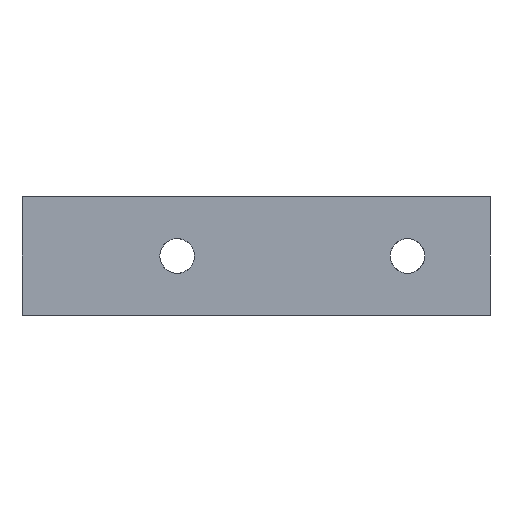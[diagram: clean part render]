
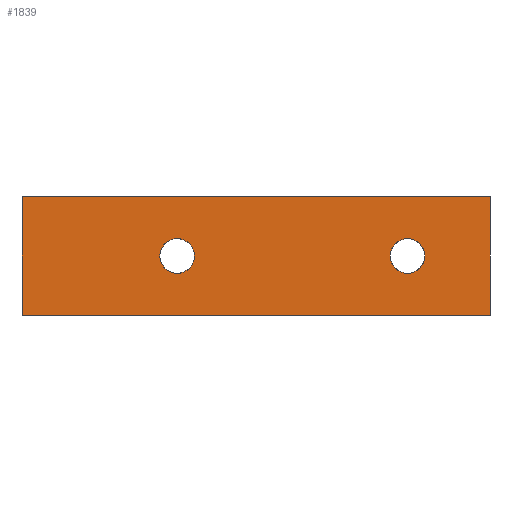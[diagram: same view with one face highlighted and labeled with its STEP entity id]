
A CAD part, front view. The second image highlights one B-rep face of the part: STEP entity #1839.
In plain terms, the highlighted planar face has unit normal (0.001, -1, 0).
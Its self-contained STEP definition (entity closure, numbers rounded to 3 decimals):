
#14 = EDGE_CURVE ( 'NONE', #1973, #266, #146, .T. ) ;
#44 = EDGE_CURVE ( 'NONE', #1586, #1378, #105, .T. ) ;
#47 = EDGE_CURVE ( 'NONE', #742, #2865, #94, .T. ) ;
#52 = EDGE_CURVE ( 'NONE', #394, #636, #84, .T. ) ;
#77 = VECTOR ( 'NONE', #260, 1000. ) ;
#84 = LINE ( 'NONE', #314, #77 ) ;
#94 = CIRCLE ( 'NONE', #3432, 2.4 ) ;
#105 = CIRCLE ( 'NONE', #3418, 2.4 ) ;
#126 = VECTOR ( 'NONE', #1924, 1000. ) ;
#146 = LINE ( 'NONE', #381, #126 ) ;
#147 = DIRECTION ( 'NONE',  ( 1., 0.001, 0. ) ) ;
#207 = CARTESIAN_POINT ( 'NONE',  ( -47.885, 13.576, -4.123 ) ) ;
#236 = CARTESIAN_POINT ( 'NONE',  ( -11.436, 13.598, -4.123 ) ) ;
#260 = DIRECTION ( 'NONE',  ( 0., 0., -1. ) ) ;
#266 = VERTEX_POINT ( 'NONE', #2523 ) ;
#276 = DIRECTION ( 'NONE',  ( 0., 0., -1. ) ) ;
#287 = DIRECTION ( 'NONE',  ( 0.001, -1., 0. ) ) ;
#290 = CARTESIAN_POINT ( 'NONE',  ( -13.836, 13.597, -4.123 ) ) ;
#296 = DIRECTION ( 'NONE',  ( 0.001, -1., 0. ) ) ;
#300 = DIRECTION ( 'NONE',  ( 1., 0.001, 0. ) ) ;
#305 = EDGE_CURVE ( 'NONE', #1378, #1586, #976, .T. ) ;
#314 = CARTESIAN_POINT ( 'NONE',  ( -2.386, 13.604, -12.373 ) ) ;
#319 = CARTESIAN_POINT ( 'NONE',  ( -45.835, 13.577, -4.123 ) ) ;
#324 = DIRECTION ( 'NONE',  ( 0.001, -1., 0. ) ) ;
#339 = DIRECTION ( 'NONE',  ( 1., 0.001, 0. ) ) ;
#381 = CARTESIAN_POINT ( 'NONE',  ( -67.385, 13.564, -12.373 ) ) ;
#394 = VERTEX_POINT ( 'NONE', #2170 ) ;
#506 = ORIENTED_EDGE ( 'NONE', *, *, #1813, .T. ) ;
#589 = ORIENTED_EDGE ( 'NONE', *, *, #305, .F. ) ;
#618 = PLANE ( 'NONE',  #750 ) ;
#619 = ORIENTED_EDGE ( 'NONE', *, *, #52, .F. ) ;
#636 = VERTEX_POINT ( 'NONE', #759 ) ;
#711 = CARTESIAN_POINT ( 'NONE',  ( -16.236, 13.595, -4.123 ) ) ;
#742 = VERTEX_POINT ( 'NONE', #3122 ) ;
#750 = AXIS2_PLACEMENT_3D ( 'NONE', #207, #287, #276 ) ;
#757 = ORIENTED_EDGE ( 'NONE', *, *, #44, .F. ) ;
#759 = CARTESIAN_POINT ( 'NONE',  ( -2.386, 13.604, -12.373 ) ) ;
#866 = CARTESIAN_POINT ( 'NONE',  ( -48.235, 13.576, -4.123 ) ) ;
#976 = CIRCLE ( 'NONE', #2829, 2.4 ) ;
#1047 = FACE_BOUND ( 'NONE', #2470, .T. ) ;
#1053 = FACE_OUTER_BOUND ( 'NONE', #2839, .T. ) ;
#1064 = VECTOR ( 'NONE', #1297, 1000. ) ;
#1067 = EDGE_CURVE ( 'NONE', #2865, #742, #1741, .T. ) ;
#1282 = CARTESIAN_POINT ( 'NONE',  ( -83.835, 13.554, 4.127 ) ) ;
#1297 = DIRECTION ( 'NONE',  ( -1., -0.001, 0. ) ) ;
#1319 = ORIENTED_EDGE ( 'NONE', *, *, #47, .F. ) ;
#1378 = VERTEX_POINT ( 'NONE', #711 ) ;
#1416 = AXIS2_PLACEMENT_3D ( 'NONE', #1522, #1519, #1517 ) ;
#1455 = FACE_BOUND ( 'NONE', #2229, .T. ) ;
#1457 = ORIENTED_EDGE ( 'NONE', *, *, #1067, .F. ) ;
#1517 = DIRECTION ( 'NONE',  ( 1., 0.001, 0. ) ) ;
#1519 = DIRECTION ( 'NONE',  ( 0.001, -1., 0. ) ) ;
#1522 = CARTESIAN_POINT ( 'NONE',  ( -45.835, 13.577, -4.123 ) ) ;
#1586 = VERTEX_POINT ( 'NONE', #236 ) ;
#1699 = ORIENTED_EDGE ( 'NONE', *, *, #14, .F. ) ;
#1741 = CIRCLE ( 'NONE', #1416, 2.4 ) ;
#1813 = EDGE_CURVE ( 'NONE', #394, #266, #3210, .T. ) ;
#1839 = ADVANCED_FACE ( 'NONE', ( #1455, #1047, #1053 ), #618, .T. ) ;
#1924 = DIRECTION ( 'NONE',  ( 0., 0., 1. ) ) ;
#1973 = VERTEX_POINT ( 'NONE', #3004 ) ;
#2170 = CARTESIAN_POINT ( 'NONE',  ( -2.386, 13.604, 4.127 ) ) ;
#2229 = EDGE_LOOP ( 'NONE', ( #757, #589 ) ) ;
#2470 = EDGE_LOOP ( 'NONE', ( #1319, #1457 ) ) ;
#2523 = CARTESIAN_POINT ( 'NONE',  ( -67.385, 13.564, 4.127 ) ) ;
#2554 = CARTESIAN_POINT ( 'NONE',  ( -101.885, 13.543, -12.373 ) ) ;
#2563 = DIRECTION ( 'NONE',  ( 1., 0.001, 0. ) ) ;
#2829 = AXIS2_PLACEMENT_3D ( 'NONE', #3007, #2993, #147 ) ;
#2839 = EDGE_LOOP ( 'NONE', ( #3031, #619, #506, #1699 ) ) ;
#2865 = VERTEX_POINT ( 'NONE', #866 ) ;
#2993 = DIRECTION ( 'NONE',  ( 0.001, -1., 0. ) ) ;
#3004 = CARTESIAN_POINT ( 'NONE',  ( -67.385, 13.564, -12.373 ) ) ;
#3007 = CARTESIAN_POINT ( 'NONE',  ( -13.836, 13.597, -4.123 ) ) ;
#3031 = ORIENTED_EDGE ( 'NONE', *, *, #3415, .T. ) ;
#3122 = CARTESIAN_POINT ( 'NONE',  ( -43.435, 13.579, -4.123 ) ) ;
#3210 = LINE ( 'NONE', #1282, #1064 ) ;
#3236 = VECTOR ( 'NONE', #2563, 1000. ) ;
#3245 = LINE ( 'NONE', #2554, #3236 ) ;
#3415 = EDGE_CURVE ( 'NONE', #1973, #636, #3245, .T. ) ;
#3418 = AXIS2_PLACEMENT_3D ( 'NONE', #290, #296, #300 ) ;
#3432 = AXIS2_PLACEMENT_3D ( 'NONE', #319, #324, #339 ) ;
